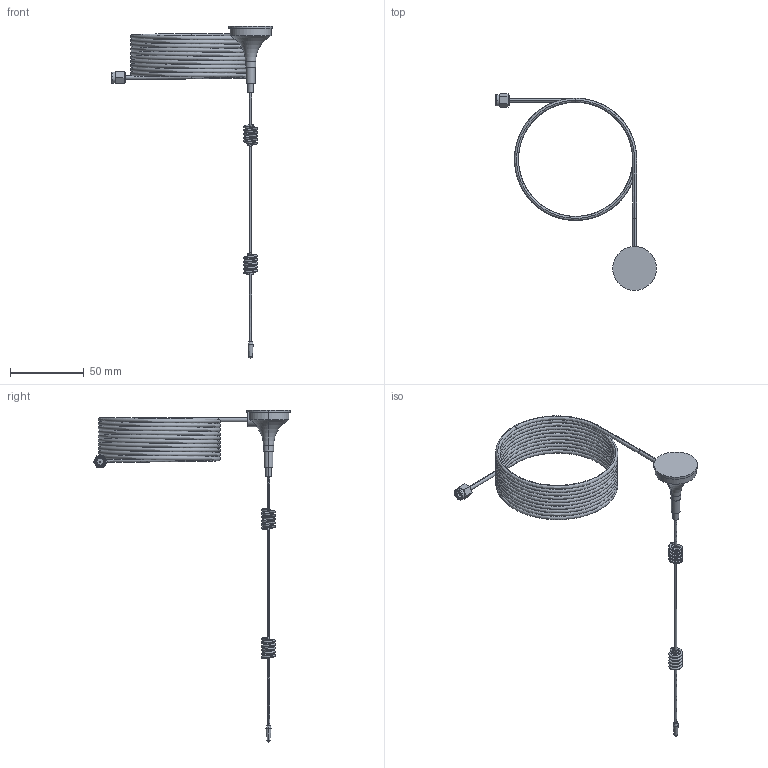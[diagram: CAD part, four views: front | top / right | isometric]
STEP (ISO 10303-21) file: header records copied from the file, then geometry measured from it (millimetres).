
FILE_DESCRIPTION (( 'STEP AP214' ), '1' );
FILE_NAME ('Antena.STEP', '2022-01-12T17:51:20', ( '' ), ( '' ), 'SwSTEP 2.0', 'SolidWorks 2021', '' );
FILE_SCHEMA (( 'AUTOMOTIVE_DESIGN' ));
Length unit declared in the file: millimetre
Products named in the file (1): Antena
Bounding box: 109.12 x 133.42 x 225.01 mm (x, y, z)
Volume: 24659.7 mm3; surface area: 28552.6 mm2
Topology: 3 solids, 3 shells, 97 faces, 216 edges, 135 vertices
Faces by surface type: cylinder 39, plane 26, torus 12, bspline 12, cone 8
Entity records: 13234 total; most frequent: CARTESIAN_POINT 9998, DIRECTION 466, ORIENTED_EDGE 428, EDGE_CURVE 214, AXIS2_PLACEMENT_3D 200, VERTEX_POINT 135, CIRCLE 114, EDGE_LOOP 109
